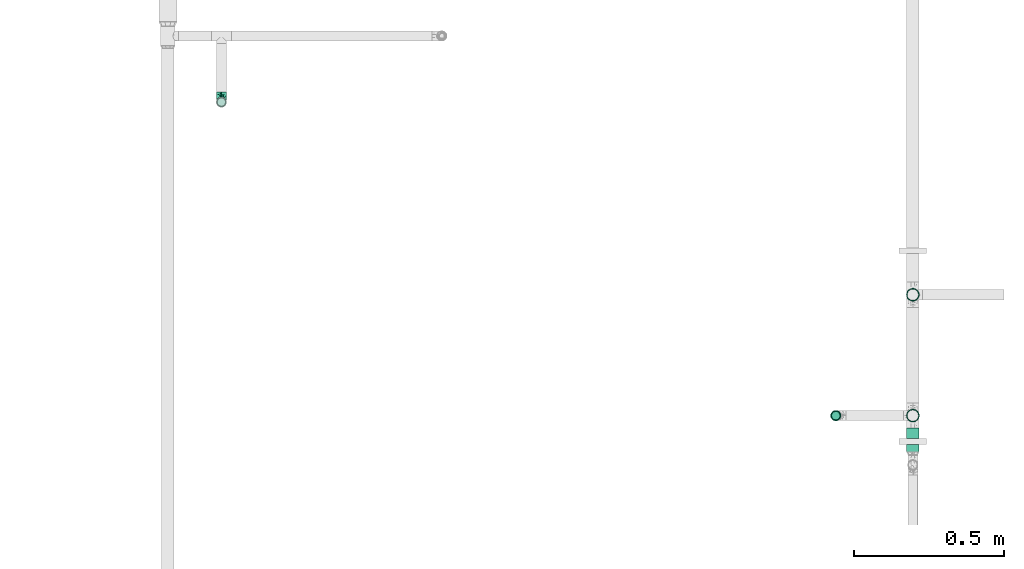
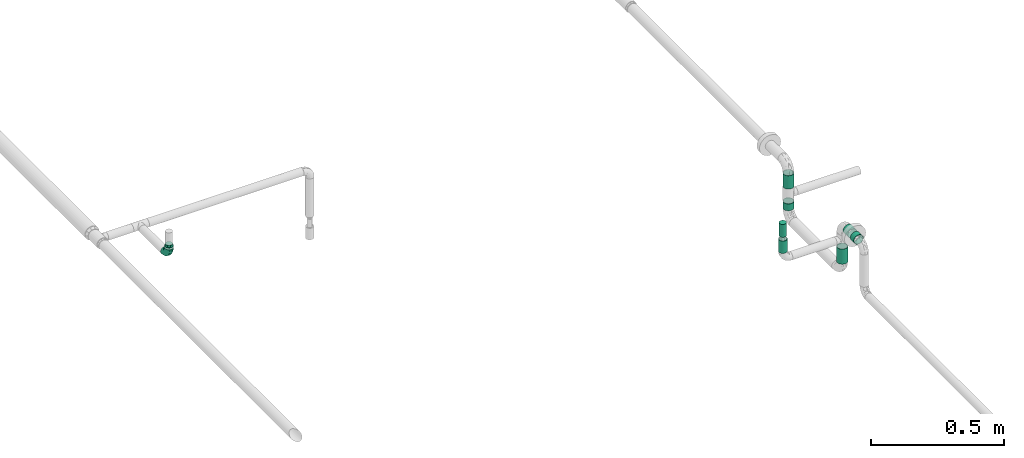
# One storey, part 19 of 43: 6 flow segments, 2 flow fittings, 1 flow terminal.
"""IFC2X3 building model written with IfcOpenShell, lengths in millimetres."""

from ifc_helpers import new_model, entity, si_unit, converted_unit, derived_unit, direction, frame, origin_with_axes, origin_2d_with_axis, place, context, subcontext, project, spatial, hollow_circle, extrude, open_shell, surface_model, source, transform, mapped, type_object, element, save


model = new_model("IFC2X3")

# Units and contexts
model_context = context("Model", 3, precision=0.01, world=frame((0.0, 4.29681676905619e-09, 0.0)), true_north=direction((4.01073788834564e-13, 1.0)))
plan_context = context("Plan", 3, precision=0.01, world=frame((0.0, 4.29681676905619e-09, 0.0)), true_north=direction((4.01073788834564e-13, 1.0)))
body_context = subcontext(model_context, "Body", "Model", "MODEL_VIEW")
ifc_project = project(units=[converted_unit("PLANEANGLEUNIT", "DEGREE", entity("IfcPositiveLengthMeasure", 0.0174532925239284), si_unit("PLANEANGLEUNIT", "RADIAN"), dimensions=[0, 0, 0, 0, 0, 0, 0]), si_unit("AREAUNIT", "SQUARE_METRE"), si_unit("LENGTHUNIT", "METRE", prefix="MILLI"), si_unit("MASSUNIT", "GRAM", prefix="KILO"), si_unit("POWERUNIT", "WATT"), si_unit("PRESSUREUNIT", "PASCAL"), si_unit("FORCEUNIT", "NEWTON", prefix="KILO"), si_unit("ELECTRICVOLTAGEUNIT", "VOLT"), si_unit("ELECTRICCURRENTUNIT", "AMPERE"), si_unit("THERMODYNAMICTEMPERATUREUNIT", "DEGREE_CELSIUS"), si_unit("TIMEUNIT", "SECOND"), si_unit("VOLUMEUNIT", "CUBIC_METRE"), derived_unit("LINEARVELOCITYUNIT", [(si_unit("LENGTHUNIT", "METRE"), 1), (si_unit("TIMEUNIT", "SECOND"), -1)]), derived_unit("VOLUMETRICFLOWRATEUNIT", [(si_unit("VOLUMEUNIT", "CUBIC_METRE"), 1), (si_unit("TIMEUNIT", "SECOND"), -1)]), derived_unit("THERMALTRANSMITTANCEUNIT", [(si_unit("POWERUNIT", "WATT"), 1), (si_unit("THERMODYNAMICTEMPERATUREUNIT", "KELVIN"), -1), (si_unit("AREAUNIT", "SQUARE_METRE"), -1)]), derived_unit("SOUNDPRESSUREUNIT", [(si_unit("PRESSUREUNIT", "PASCAL"), 1)])], contexts=[model_context, plan_context])

# Site, building, storey
site_placement = place(None, frame((0.0, -4.29681676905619e-09, 0.0), z_axis=(0.0, 0.0, 1.0), x_axis=(1.0, 0.0, 0.0)))
site = spatial("IfcSite", under=ifc_project, at=site_placement, CompositionType="ELEMENT")
building_placement = place(site_placement, frame((0.0, 4.29681676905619e-09, 0.0), z_axis=(0.0, 0.0, 1.0), x_axis=(1.0, 0.0, 0.0)))
building = spatial("IfcBuilding", under=site, at=building_placement, Name="mc-building", CompositionType="ELEMENT")
storey_placement = place(building_placement, frame((0.0, 0.0, 210900.0), z_axis=(0.0, 0.0, 1.0), x_axis=(1.0, 0.0, 0.0)))
storey = spatial("IfcBuildingStorey", under=building, at=storey_placement, Name="Nivå F", CompositionType="ELEMENT", Elevation=210900.0)

# Flow fittings
pipe_fitting_type_1 = type_object("IfcPipeFittingType", Name="magi_pipe_fe_elbow_short_001", PredefinedType="BEND")
shared_shape_1 = source(origin_with_axes(), body_context, "Body", "SurfaceModel", [
    surface_model("IfcShellBasedSurfaceModel", [(-33.8, 4.37404, -16.32415), (-33.8, 0.0, -16.9), (-33.8, 11.9501, -11.9501), (-33.8, 8.45, -14.63583), (-33.8, 16.32415, -4.37404), (-33.8, 14.63583, -8.45), (-33.8, -14.63583, -8.45), (-33.8, -16.32415, -4.37404), (-33.8, -8.45, 14.63583), (-33.8, -11.9501, -11.9501), (-33.8, -8.45, -14.63583), (-33.8, -4.37404, -16.32415), (-33.8, -16.9, 0.0), (-33.8, -16.32415, 4.37404), (-33.8, 11.9501, 11.9501), (-33.8, 14.63583, 8.45), (-33.8, 16.32415, 4.37404), (-33.8, 4.37404, 16.32415), (-33.8, 8.45, 14.63583), (-33.8, -14.63583, 8.45), (-33.8, -11.9501, 11.9501), (-33.8, -4.37404, 16.32415), (-33.8, 0.0, 16.9), (-33.8, 16.9, 0.0), (-11.9501, 33.8, -11.9501), (0.0, 33.8, -16.9), (-4.37404, 33.8, -16.32415), (-8.45, 33.8, -14.63583), (-14.63583, 33.8, -8.45), (-16.32415, 33.8, -4.37404), (14.63583, 33.8, -8.45), (8.45, 33.8, 14.63583), (16.32415, 33.8, -4.37404), (8.45, 33.8, -14.63583), (11.9501, 33.8, -11.9501), (4.37404, 33.8, -16.32415), (16.32415, 33.8, 4.37404), (16.9, 33.8, 0.0), (-11.9501, 33.8, 11.9501), (-16.32415, 33.8, 4.37404), (-14.63583, 33.8, 8.45), (-8.45, 33.8, 14.63583), (-4.37404, 33.8, 16.32415), (11.9501, 33.8, 11.9501), (14.63583, 33.8, 8.45), (0.0, 33.8, 16.9), (4.37404, 33.8, 16.32415), (-16.9, 33.8, 0.0), (-24.79389, -13.12945, 9.48721), (-22.19287, -9.75018, 12.59315), (-24.09897, -14.97035, 0.0), (-14.93934, -10.76256, 8.5297), (-22.46095, -14.75051, 5.27077), (14.75051, 22.46094, 5.27077), (11.9251, 13.23888, 4.33236), (13.04069, 14.39795, 0.0), (7.71387, 13.68847, 11.55891), (9.75018, 22.19287, 12.59315), (4.10169, 13.0571, 14.04018), (-24.84007, -6.39063, 15.2048), (-25.81779, -2.23879, 16.61097), (-23.66549, 2.59054, 16.87119), (-26.50418, 14.06512, 11.08152), (-24.21253, 17.66365, 7.72657), (-29.58514, 15.86957, 7.00283), (-6.17382, -7.5455, 0.0), (-13.23888, -11.9251, 4.33236), (-14.39795, -13.04069, 0.0), (-17.81434, 18.87373, 11.97104), (-6.30846, 29.15138, 15.82987), (-2.31622, 25.28002, 16.85849), (-29.23923, 10.23435, 13.77053), (-1.45439, -2.85688, 7.61475), (-0.28326, 0.34872, 10.09509), (-5.74484, -4.04709, 10.4122), (-4.41137, 11.31918, 16.59407), (-8.39727, 3.10034, 15.7812), (-1.72649, 9.1306, 15.53089), (-17.39909, 24.75344, 7.64977), (-26.19233, 20.0512, 0.0), (-28.14518, 17.29657, 4.25857), (-26.05147, 6.6281, 15.96447), (-5.87354, 16.61944, 16.86968), (-12.51807, 12.51807, 16.48937), (-10.06312, 7.38516, 16.81295), (-3.01882, 3.01882, 13.81718), (-13.0571, -4.10169, 14.04018), (-16.82553, -0.15166, 16.38038), (10.76256, 14.93934, 8.5297), (13.12945, 24.79389, 9.48721), (6.39063, 24.84007, 15.2048), (2.23879, 25.81779, 16.61097), (-13.68847, -7.71387, 11.55891), (14.97035, 24.09897, 0.0), (-7.30894, 22.89991, 16.09489), (-10.67958, 26.17414, 14.008), (-12.78295, 18.26924, 15.06066), (-13.88562, 22.45231, 12.93244), (-18.04944, 15.16501, 14.04434), (-23.11658, 20.08178, 4.02986), (-21.84989, 21.84989, 0.0), (-18.55817, 25.48277, 3.93065), (-13.95142, 26.94732, 11.03289), (-18.57098, 7.23906, 16.59756), (-16.58335, 4.14122, 16.89279), (-17.96666, 11.46709, 15.63151), (-9.84453, 17.54304, 16.18938), (0.15166, 16.82553, 16.38038), (-23.27207, 11.47201, 14.23154), (3.84842, 5.86994, 10.70473), (-8.0212, -7.54413, 7.93275), (1.00345, -2.19508, 4.57414), (5.13203, 3.01004, 5.90201), (5.24161, 1.7543, 2.53265), (8.70457, 7.04947, 3.99182), (-20.0512, 26.19233, 0.0), (8.4852, 8.76699, 7.09296), (-4.55488, -6.72064, 4.90681), (2.05031, -2.05031, 0.0), (7.5455, 6.17382, 0.0), (-26.75399, 2.1369, -16.845), (-14.61995, 24.73803, -11.27736), (-28.45274, -13.45335, -9.81895), (-26.00469, 6.63555, -15.96645), (-23.06726, 20.04573, -4.26202), (-13.80647, -4.26506, -14.17873), (-14.67501, -0.21081, -16.07388), (-6.7902, -0.2828, -13.8478), (-24.53586, 11.08096, -14.13417), (-26.72048, 14.00837, -11.05776), (10.0967, 24.44989, -12.75976), (5.83237, 21.40218, -15.03047), (6.66249, 28.54238, -15.38093), (-20.38182, 15.48705, -12.74596), (-15.65186, 19.64213, -13.01327), (-12.03528, 20.66498, -14.67665), (-15.61907, 15.61906, -14.83879), (-25.56551, -15.26206, 0.0), (-24.65452, -15.12934, -5.50955), (12.53268, 21.23441, -9.15363), (13.45335, 28.45274, -9.81895), (15.12934, 24.65452, -5.50955), (-7.35442, -8.31014, -5.65563), (-15.67504, -12.54494, -5.54878), (-24.44989, -10.0967, -12.75976), (0.16522, 0.41303, -9.71728), (-5.70658, -5.33066, -8.89288), (-5.13869, -2.37198, -11.53565), (-21.23441, -12.53268, -9.15363), (0.71146, 7.93863, -14.09382), (0.21081, 14.67501, -16.07388), (3.49291, 14.42772, -14.76381), (-24.89911, -2.13088, -16.591), (-28.54238, -6.66249, -15.38093), (-18.44386, -7.71663, -13.26957), (2.13088, 24.89911, -16.591), (-28.64342, 17.44413, -2.89318), (1.70017, -1.28722, -5.09504), (-16.57067, 26.81947, -7.36596), (-17.69055, 27.4263, -3.76405), (-12.89279, -9.7522, -8.66343), (-5.96611, 5.96611, -15.95814), (-20.53709, 20.09345, -8.28985), (-2.1369, 26.75399, -16.845), (-6.89872, 24.58781, -16.02578), (-10.60739, 26.53157, -13.98044), (-21.40218, -5.83237, -15.03047), (2.93192, 5.89627, -11.55917), (6.89393, 12.61842, -11.82233), (5.58056, 5.95325, -8.79455), (-3.99512, 18.61798, -16.89635), (-9.1383, 9.86148, -16.89041), (-9.99983, 16.02119, -16.39699), (-16.68576, 9.78031, -16.34199), (-27.01915, 16.61158, -7.12979), (15.26206, 25.56551, 0.0), (-18.61798, 3.99512, -16.89635), (-19.37495, 27.82495, 0.0), (9.7522, 12.89279, -8.66343), (-12.61842, -6.89393, -11.82233), (8.31014, 7.35442, -5.65563), (-18.84705, 19.14018, -10.96545), (12.54494, 15.67504, -5.54878)], [open_shell([[[0, 1, 2]], [[3, 0, 2]], [[4, 5, 2]], [[6, 2, 1]], [[2, 7, 8]], [[9, 6, 10]], [[1, 11, 10]], [[10, 6, 1]], [[2, 6, 7]], [[12, 13, 7]], [[4, 2, 14]], [[4, 15, 16]], [[4, 14, 15]], [[17, 18, 14]], [[14, 2, 8]], [[17, 14, 8]], [[19, 20, 13]], [[20, 7, 13]], [[21, 22, 8]], [[20, 8, 7]], [[8, 22, 17]], [[4, 16, 23]], [[24, 25, 26]], [[24, 26, 27]], [[24, 28, 29]], [[25, 24, 30]], [[31, 32, 24]], [[33, 30, 34]], [[33, 35, 25]], [[25, 30, 33]], [[32, 30, 24]], [[32, 36, 37]], [[38, 24, 29]], [[39, 40, 29]], [[40, 38, 29]], [[38, 41, 42]], [[38, 31, 24]], [[31, 38, 42]], [[36, 43, 44]], [[36, 32, 43]], [[31, 45, 46]], [[32, 31, 43]], [[42, 45, 31]], [[39, 29, 47]], [[20, 48, 49]], [[13, 12, 50]], [[51, 48, 52]], [[53, 54, 55]], [[48, 20, 19]], [[13, 52, 19]], [[56, 57, 58]], [[49, 8, 20]], [[49, 59, 8]], [[22, 60, 61]], [[62, 63, 64]], [[65, 66, 67]], [[57, 43, 31]], [[62, 68, 63]], [[42, 69, 70]], [[18, 71, 14]], [[21, 60, 22]], [[72, 73, 74]], [[75, 76, 77]], [[14, 62, 15]], [[40, 39, 78]], [[79, 23, 80]], [[64, 16, 15]], [[22, 61, 17]], [[17, 81, 18]], [[82, 83, 84]], [[74, 85, 86]], [[59, 86, 87]], [[88, 89, 57]], [[90, 31, 46]], [[44, 53, 36]], [[46, 45, 91]], [[54, 53, 88]], [[44, 89, 53]], [[92, 86, 49]], [[89, 44, 43]], [[8, 59, 21]], [[53, 55, 93]], [[93, 36, 53]], [[66, 52, 67]], [[94, 82, 70]], [[95, 96, 94]], [[97, 98, 96]], [[79, 99, 100]], [[41, 38, 95]], [[101, 100, 99]], [[68, 78, 63]], [[42, 41, 69]], [[23, 16, 80]], [[95, 94, 69]], [[78, 101, 99]], [[38, 102, 95]], [[70, 45, 42]], [[97, 95, 102]], [[13, 50, 52]], [[90, 57, 31]], [[57, 90, 58]], [[81, 17, 61]], [[103, 104, 84]], [[105, 81, 103]], [[38, 40, 102]], [[106, 96, 83]], [[94, 106, 82]], [[91, 70, 107]], [[71, 62, 14]], [[62, 108, 98]], [[86, 59, 49]], [[67, 52, 50]], [[60, 59, 87]], [[92, 49, 51]], [[86, 85, 76]], [[91, 90, 46]], [[37, 36, 93]], [[107, 77, 58]], [[107, 58, 90]], [[58, 85, 109]], [[110, 74, 92]], [[72, 74, 110]], [[66, 51, 52]], [[72, 111, 112]], [[113, 114, 112]], [[56, 88, 57]], [[52, 48, 19]], [[49, 48, 51]], [[57, 89, 43]], [[53, 89, 88]], [[103, 81, 61]], [[71, 81, 108]], [[16, 64, 80]], [[63, 78, 99]], [[47, 115, 101]], [[101, 115, 100]], [[40, 78, 102]], [[68, 102, 78]], [[97, 96, 95]], [[105, 98, 108]], [[103, 84, 83]], [[107, 70, 82]], [[76, 84, 87]], [[82, 84, 75]], [[70, 91, 45]], [[90, 91, 107]], [[59, 60, 21]], [[61, 60, 87]], [[73, 85, 74]], [[109, 112, 116]], [[103, 61, 104]], [[105, 103, 83]], [[96, 105, 83]], [[81, 105, 108]], [[96, 98, 105]], [[62, 98, 68]], [[61, 87, 104]], [[87, 84, 104]], [[86, 76, 87]], [[77, 76, 85]], [[58, 77, 85]], [[75, 77, 107]], [[82, 75, 107]], [[76, 75, 84]], [[81, 71, 18]], [[62, 71, 108]], [[95, 69, 41]], [[70, 69, 94]], [[62, 64, 15]], [[80, 63, 99]], [[63, 80, 64]], [[80, 99, 79]], [[66, 65, 117]], [[110, 66, 117]], [[112, 114, 116]], [[118, 117, 65]], [[110, 92, 51]], [[112, 111, 113]], [[119, 55, 54]], [[74, 86, 92]], [[58, 109, 56]], [[116, 56, 109]], [[66, 110, 51]], [[72, 110, 117]], [[111, 72, 117]], [[73, 112, 109]], [[117, 118, 111]], [[113, 111, 118]], [[118, 119, 113]], [[114, 119, 54]], [[119, 114, 113]], [[116, 54, 88]], [[54, 116, 114]], [[116, 88, 56]], [[112, 73, 72]], [[85, 73, 109]], [[78, 39, 101]], [[47, 101, 39]], [[102, 68, 97]], [[97, 68, 98]], [[82, 106, 83]], [[94, 96, 106]], [[0, 120, 1]], [[28, 24, 121]], [[9, 122, 6]], [[3, 123, 0]], [[100, 124, 79]], [[125, 126, 127]], [[128, 2, 129]], [[130, 131, 132]], [[128, 129, 133]], [[134, 135, 136]], [[128, 3, 2]], [[67, 137, 138]], [[139, 140, 141]], [[138, 7, 6]], [[142, 65, 143]], [[144, 9, 10]], [[145, 146, 147]], [[143, 138, 148]], [[149, 150, 151]], [[152, 11, 1]], [[10, 153, 144]], [[148, 144, 154]], [[153, 10, 11]], [[35, 155, 25]], [[23, 79, 156]], [[146, 157, 142]], [[158, 159, 29]], [[143, 160, 142]], [[161, 150, 149]], [[29, 28, 158]], [[121, 162, 158]], [[33, 34, 130]], [[25, 163, 26]], [[26, 163, 164]], [[140, 34, 30]], [[24, 27, 165]], [[124, 159, 162]], [[155, 35, 132]], [[153, 152, 166]], [[123, 3, 128]], [[167, 168, 169]], [[170, 155, 150]], [[26, 164, 27]], [[132, 35, 33]], [[140, 130, 34]], [[166, 152, 126]], [[133, 134, 136]], [[2, 5, 129]], [[168, 131, 130]], [[30, 32, 141]], [[170, 171, 172]], [[173, 123, 128]], [[156, 174, 4]], [[165, 27, 164]], [[172, 164, 170]], [[134, 165, 135]], [[122, 138, 6]], [[137, 12, 7]], [[32, 37, 175]], [[168, 130, 139]], [[150, 155, 131]], [[163, 155, 170]], [[151, 168, 149]], [[150, 161, 171]], [[166, 125, 154]], [[122, 144, 148]], [[120, 152, 1]], [[176, 171, 126]], [[176, 126, 152]], [[126, 161, 127]], [[160, 143, 148]], [[137, 7, 138]], [[32, 175, 141]], [[55, 141, 175]], [[174, 129, 5]], [[128, 133, 136]], [[173, 128, 136]], [[120, 123, 176]], [[121, 158, 28]], [[159, 100, 177]], [[164, 172, 135]], [[121, 24, 165]], [[159, 47, 29]], [[79, 124, 156]], [[124, 162, 174]], [[159, 124, 100]], [[178, 169, 168]], [[127, 161, 149]], [[145, 169, 157]], [[146, 142, 160]], [[127, 149, 167]], [[127, 179, 125]], [[129, 174, 162]], [[5, 4, 174]], [[157, 65, 142]], [[67, 138, 143]], [[123, 120, 0]], [[152, 120, 176]], [[155, 163, 25]], [[164, 163, 170]], [[170, 150, 171]], [[173, 136, 172]], [[126, 171, 161]], [[173, 171, 176]], [[171, 173, 172]], [[123, 173, 176]], [[148, 179, 160]], [[127, 147, 179]], [[179, 146, 160]], [[157, 146, 145]], [[169, 178, 180]], [[168, 139, 178]], [[157, 169, 180]], [[169, 145, 167]], [[167, 145, 147]], [[149, 168, 167]], [[162, 181, 129]], [[181, 121, 134]], [[179, 147, 146]], [[167, 147, 127]], [[181, 134, 133]], [[165, 134, 121]], [[164, 135, 165]], [[172, 136, 135]], [[129, 181, 133]], [[121, 181, 162]], [[159, 158, 162]], [[47, 159, 177]], [[174, 156, 124]], [[23, 156, 4]], [[130, 132, 33]], [[155, 132, 131]], [[141, 140, 30]], [[130, 140, 139]], [[152, 153, 11]], [[144, 153, 166]], [[144, 122, 9]], [[138, 122, 148]], [[150, 131, 151]], [[157, 119, 118]], [[67, 143, 65]], [[168, 151, 131]], [[119, 157, 180]], [[157, 118, 65]], [[154, 125, 179]], [[126, 125, 166]], [[148, 154, 179]], [[166, 154, 144]], [[139, 182, 178]], [[141, 182, 139]], [[178, 182, 180]], [[182, 55, 119]], [[141, 55, 182]], [[182, 119, 180]]])]),
])
flow_fitting_1_placement = place(storey_placement, frame((608058.43429, 692038.17058, 2660.0), z_axis=(1.0, 0.0, 0.0), x_axis=(0.0, 0.0, -1.0)))
element("IfcFlowFitting", 1, at=flow_fitting_1_placement, inside=storey, type_object=pipe_fitting_type_1, Name="magi_pipe_fe_elbow_short_001", context=body_context, shape_type="MappedRepresentation", body=[
    mapped(shared_shape_1, transform((0.0, 0.0, 0.0), scale=1.0)),
])
pipe_fitting_type_2 = type_object("IfcPipeFittingType", Name="magi_pipe_fe_reducer_centric_short_NOR", PredefinedType="TRANSITION")
shared_shape_2 = source(origin_with_axes(), body_context, "Body", "SurfaceModel", [
    surface_model("IfcShellBasedSurfaceModel", [(-2.0, 11.9501, 11.9501), (-2.0, 0.0, 16.9), (-2.0, 4.37404, 16.32415), (-2.0, 8.45, 14.63583), (-2.0, 14.63583, 8.45), (-2.0, 16.32415, 4.37404), (-2.0, -16.32415, 4.37404), (-2.0, -8.45, 14.63583), (-2.0, -14.63583, 8.45), (-2.0, -11.9501, 11.9501), (-2.0, -4.37404, 16.32415), (-2.0, -16.32415, -4.37404), (-2.0, -16.9, 0.0), (-2.0, -8.45, -14.63583), (-2.0, 16.32415, -4.37404), (-2.0, 11.9501, -11.9501), (-2.0, 14.63583, -8.45), (-2.0, 8.45, -14.63583), (-2.0, 4.37404, -16.32415), (-2.0, 0.0, -16.9), (-2.0, -11.9501, -11.9501), (-2.0, -14.63583, -8.45), (-2.0, -4.37404, -16.32415), (-2.0, 16.9, 0.0), (0.0, 4.37404, -16.32415), (0.0, 8.45, -14.63583), (0.0, 11.9501, -11.9501), (0.0, 0.0, -16.9), (0.0, 16.32415, -4.37404), (0.0, 16.32415, 4.37404), (0.0, 14.63583, -8.45), (0.0, -8.45, -14.63583), (0.0, -4.37404, -16.32415), (0.0, -11.9501, -11.9501), (0.0, -16.32415, -4.37404), (0.0, -14.63583, -8.45), (0.0, -16.32415, 4.37404), (0.0, 16.9, 0.0), (0.0, 14.63583, 8.45), (0.0, 11.9501, 11.9501), (0.0, 4.37404, 16.32415), (0.0, 8.45, 14.63583), (0.0, 0.0, 16.9), (0.0, -14.63583, 8.45), (0.0, -16.9, 0.0), (0.0, -8.45, 14.63583), (0.0, -11.9501, 11.9501), (0.0, -4.37404, 16.32415), (9.0, 12.94341, -3.46818), (9.0, 3.46818, -12.94341), (9.0, 6.7, -11.60474), (9.0, 9.47523, -9.47523), (9.0, -6.7, -11.60474), (9.0, -12.94341, 3.46818), (9.0, 11.60474, -6.7), (9.0, 0.0, -13.4), (9.0, -3.46818, -12.94341), (9.0, -9.47523, -9.47523), (9.0, -12.94341, -3.46818), (9.0, -11.60474, -6.7), (9.0, 13.4, 0.0), (9.0, 12.94341, 3.46818), (9.0, 11.60474, 6.7), (9.0, 9.47523, 9.47523), (9.0, 0.0, 13.4), (9.0, 6.7, 11.60474), (9.0, 3.46818, 12.94341), (9.0, -6.7, 11.60474), (9.0, -9.47523, 9.47523), (9.0, -11.60474, 6.7), (9.0, -13.4, 0.0), (9.0, -3.46818, 12.94341), (7.0, 0.0, 13.4), (7.0, 3.46818, 12.94341), (7.0, 6.7, 11.60474), (7.0, -3.46818, 12.94341), (7.0, 9.47523, 9.47523), (7.0, 11.60474, 6.7), (7.0, 12.94341, 3.46818), (7.0, -12.94341, 3.46818), (7.0, -9.47523, 9.47523), (7.0, -6.7, 11.60474), (7.0, -11.60474, 6.7), (7.0, -12.94341, -3.46818), (7.0, -13.4, 0.0), (7.0, -6.7, -11.60474), (7.0, 12.94341, -3.46818), (7.0, 9.47523, -9.47523), (7.0, 11.60474, -6.7), (7.0, 6.7, -11.60474), (7.0, 3.46818, -12.94341), (7.0, -9.47523, -9.47523), (7.0, -11.60474, -6.7), (7.0, 0.0, -13.4), (7.0, -3.46818, -12.94341), (7.0, 13.4, 0.0), (0.0, 13.18758, -8.96258), (0.0, 14.42505, -5.97505), (7.0, 10.491, -7.02294), (7.0, 11.50677, -4.57065), (0.0, 15.66253, -2.98753), (7.0, 12.45339, -2.28533), (0.0, 2.98753, -15.66253), (0.0, 5.97505, -14.42505), (0.0, 8.96258, -13.18758), (7.0, 4.73762, -11.43761), (7.0, 7.10642, -10.45642), (7.0, 2.36881, -12.41881), (0.0, -14.42505, -5.97505), (7.0, -11.43761, -4.73762), (7.0, -12.41881, -2.36881), (7.0, -2.36881, -12.41881), (7.0, -10.45642, -7.10642), (0.0, -15.70614, -2.88224), (0.0, -13.18758, -8.96258), (7.0, -4.73762, -11.43761), (7.0, -7.10642, -10.45642), (0.0, -5.97505, -14.42505), (0.0, -2.98753, -15.66253), (0.0, -8.96258, -13.18758), (0.0, -13.18758, 8.96258), (0.0, -14.42505, 5.97505), (7.0, -10.491, 7.02294), (7.0, -11.50677, 4.57065), (0.0, -15.66253, 2.98753), (7.0, -12.45339, 2.28533), (0.0, -2.98753, 15.66253), (0.0, -5.97505, 14.42505), (0.0, -8.96258, 13.18758), (7.0, -4.73762, 11.43761), (7.0, -7.10642, 10.45642), (7.0, -2.36881, 12.41881), (0.0, 14.42505, 5.97505), (7.0, 11.43761, 4.73762), (7.0, 12.41881, 2.36881), (7.0, 2.36881, 12.41881), (7.0, 10.45642, 7.10642), (0.0, 15.70614, 2.88224), (0.0, 13.18758, 8.96258), (7.0, 4.73762, 11.43761), (7.0, 7.10642, 10.45642), (0.0, 5.97505, 14.42505), (0.0, 2.98753, 15.66253), (0.0, 8.96258, 13.18758)], [open_shell([[[0, 1, 2]], [[0, 2, 3]], [[0, 4, 5]], [[0, 5, 1]], [[1, 5, 6]], [[7, 8, 9]], [[7, 10, 1]], [[8, 7, 1]], [[1, 6, 8]], [[6, 11, 12]], [[6, 5, 13]], [[5, 14, 15]], [[15, 14, 16]], [[15, 17, 18]], [[13, 5, 15]], [[19, 15, 18]], [[11, 20, 21]], [[20, 11, 13]], [[13, 19, 22]], [[11, 6, 13]], [[15, 19, 13]], [[5, 23, 14]], [[24, 25, 26]], [[27, 24, 26]], [[26, 28, 29]], [[28, 26, 30]], [[26, 29, 31]], [[27, 31, 32]], [[27, 26, 31]], [[33, 34, 35]], [[34, 33, 31]], [[31, 36, 34]], [[29, 28, 37]], [[29, 38, 39]], [[29, 39, 40]], [[40, 36, 31]], [[40, 39, 41]], [[36, 40, 42]], [[42, 43, 36]], [[44, 34, 36]], [[43, 45, 46]], [[43, 42, 45]], [[45, 42, 47]], [[31, 29, 40]], [[11, 34, 12]], [[21, 35, 11]], [[31, 20, 13]], [[21, 20, 33]], [[32, 13, 22]], [[11, 35, 34]], [[34, 44, 12]], [[32, 31, 13]], [[33, 20, 31]], [[33, 35, 21]], [[27, 32, 22]], [[22, 19, 27]], [[18, 24, 19]], [[17, 25, 18]], [[30, 15, 16]], [[17, 15, 26]], [[28, 16, 14]], [[17, 26, 25]], [[25, 24, 18]], [[37, 28, 14]], [[30, 16, 28]], [[30, 26, 15]], [[23, 37, 14]], [[19, 24, 27]], [[5, 29, 23]], [[4, 38, 5]], [[41, 0, 3]], [[4, 0, 39]], [[40, 3, 2]], [[5, 38, 29]], [[29, 37, 23]], [[40, 41, 3]], [[39, 0, 41]], [[39, 38, 4]], [[42, 40, 2]], [[2, 1, 42]], [[10, 47, 1]], [[7, 45, 10]], [[43, 9, 8]], [[7, 9, 46]], [[36, 8, 6]], [[7, 46, 45]], [[45, 47, 10]], [[44, 36, 6]], [[43, 8, 36]], [[43, 46, 9]], [[12, 44, 6]], [[1, 47, 42]], [[33, 44, 27]], [[42, 39, 46]], [[39, 27, 44]], [[44, 46, 39]], [[48, 49, 50]], [[48, 50, 51]], [[52, 49, 53]], [[48, 51, 54]], [[49, 48, 53]], [[55, 52, 56]], [[55, 49, 52]], [[57, 58, 59]], [[53, 58, 57]], [[57, 52, 53]], [[48, 60, 53]], [[61, 62, 63]], [[61, 63, 64]], [[65, 66, 64]], [[65, 64, 63]], [[61, 64, 67]], [[53, 68, 69]], [[70, 58, 53]], [[53, 67, 68]], [[53, 61, 67]], [[71, 67, 64]], [[53, 60, 61]], [[72, 73, 74]], [[75, 72, 74]], [[76, 77, 78]], [[74, 76, 75]], [[78, 79, 76]], [[75, 80, 81]], [[80, 75, 79]], [[80, 79, 82]], [[75, 76, 79]], [[79, 83, 84]], [[79, 78, 85]], [[86, 87, 78]], [[87, 86, 88]], [[89, 85, 78]], [[78, 87, 89]], [[85, 89, 90]], [[83, 91, 92]], [[83, 79, 91]], [[85, 93, 94]], [[79, 85, 91]], [[90, 93, 85]], [[95, 86, 78]], [[83, 58, 84]], [[92, 59, 83]], [[52, 91, 85]], [[92, 91, 57]], [[56, 85, 94]], [[83, 59, 58]], [[58, 70, 84]], [[56, 52, 85]], [[57, 91, 52]], [[57, 59, 92]], [[55, 56, 94]], [[94, 93, 55]], [[90, 49, 93]], [[89, 50, 90]], [[54, 87, 88]], [[89, 87, 51]], [[48, 88, 86]], [[89, 51, 50]], [[50, 49, 90]], [[60, 48, 86]], [[54, 88, 48]], [[54, 51, 87]], [[95, 60, 86]], [[93, 49, 55]], [[78, 61, 95]], [[77, 62, 78]], [[65, 76, 74]], [[77, 76, 63]], [[66, 74, 73]], [[78, 62, 61]], [[61, 60, 95]], [[66, 65, 74]], [[63, 76, 65]], [[63, 62, 77]], [[64, 66, 73]], [[73, 72, 64]], [[75, 71, 72]], [[81, 67, 75]], [[69, 80, 82]], [[81, 80, 68]], [[53, 82, 79]], [[81, 68, 67]], [[67, 71, 75]], [[70, 53, 79]], [[69, 82, 53]], [[69, 68, 80]], [[84, 70, 79]], [[72, 71, 64]], [[72, 80, 95]], [[95, 76, 72]], [[80, 91, 95]], [[91, 93, 95]], [[87, 95, 93]], [[80, 84, 91]], [[26, 27, 39]], [[39, 37, 26]], [[96, 97, 98]], [[99, 100, 101]], [[37, 95, 101]], [[93, 27, 102]], [[103, 104, 105]], [[104, 26, 106]], [[87, 26, 96]], [[103, 107, 102]], [[108, 109, 110]], [[37, 101, 100]], [[27, 93, 111]], [[112, 33, 91]], [[110, 84, 113]], [[109, 114, 112]], [[33, 112, 114]], [[115, 116, 117]], [[115, 118, 111]], [[93, 102, 107]], [[116, 91, 119]], [[27, 111, 118]], [[97, 99, 98]], [[87, 96, 98]], [[100, 99, 97]], [[26, 87, 106]], [[105, 104, 106]], [[107, 103, 105]], [[84, 44, 113]], [[108, 110, 113]], [[114, 109, 108]], [[91, 33, 119]], [[117, 116, 119]], [[118, 115, 117]], [[120, 121, 122]], [[123, 124, 125]], [[44, 84, 125]], [[72, 42, 126]], [[127, 128, 129]], [[128, 46, 130]], [[80, 46, 120]], [[127, 131, 126]], [[132, 133, 134]], [[44, 125, 124]], [[42, 72, 135]], [[136, 39, 76]], [[134, 95, 137]], [[133, 138, 136]], [[39, 136, 138]], [[139, 140, 141]], [[139, 142, 135]], [[72, 126, 131]], [[140, 76, 143]], [[42, 135, 142]], [[121, 123, 122]], [[80, 120, 122]], [[124, 123, 121]], [[46, 80, 130]], [[129, 128, 130]], [[131, 127, 129]], [[95, 37, 137]], [[132, 134, 137]], [[138, 133, 132]], [[76, 39, 143]], [[141, 140, 143]], [[142, 139, 141]]])]),
])
flow_fitting_2_placement = place(storey_placement, frame((608058.44083, 692038.25322, 2702.99278), z_axis=(-0.0788420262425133, -0.996846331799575, 0.00901807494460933), x_axis=(0.00071100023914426, 0.00899000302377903, 0.999959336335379)))
element("IfcFlowFitting", 2, at=flow_fitting_2_placement, inside=storey, type_object=pipe_fitting_type_2, Name="magi_pipe_fe_reducer_centric_short_NOR", context=body_context, shape_type="MappedRepresentation", body=[
    mapped(shared_shape_2, transform((0.0, 0.0, 0.0), scale=1.0)),
])

# Flow segments
pipe_segment_type = type_object("IfcPipeSegmentType", Name="Stålrør normaltykke", PredefinedType="RIGIDSEGMENT")
shared_shape_3 = source(origin_with_axes(), body_context, "Body", "SweptSolid", [
    extrude(hollow_circle(Radius=16.9, WallThickness=2.0, at=origin_2d_with_axis()), frame((0.0, 0.0, 0.0), z_axis=(1.0, 0.0, 0.0), x_axis=(0.0, 1.0, 0.0)), (0.0, 0.0, 1.0), 56.3),
])
flow_segment_1_placement = place(storey_placement, frame((610109.53901, 690991.77265, 2650.10000000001), z_axis=(-1.0, 0.0, 0.0), x_axis=(0.0, 0.0, -1.0)))
element("IfcFlowSegment", 3, at=flow_segment_1_placement, inside=storey, type_object=pipe_segment_type, Name="Stålrør normaltykke", context=body_context, shape_type="MappedRepresentation", body=[
    mapped(shared_shape_3, transform((0.0, 0.0, 0.0), scale=1.0)),
])
shared_shape_4 = source(origin_with_axes(), body_context, "Body", "SweptSolid", [
    extrude(hollow_circle(Radius=21.2, WallThickness=2.0, at=origin_2d_with_axis()), frame((0.0, 0.0, 0.0), z_axis=(1.0, 0.0, 0.0), x_axis=(0.0, 1.0, 0.0)), (0.0, 0.0, 1.0), 31.3),
])
flow_segment_2_placement = place(storey_placement, frame((610366.6122, 691395.18624, 2488.70000000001), z_axis=(0.0, 1.0, 0.0), x_axis=(0.0, 0.0, -1.0)))
element("IfcFlowSegment", 4, at=flow_segment_2_placement, inside=storey, type_object=pipe_segment_type, Name="Stålrør normaltykke", context=body_context, shape_type="MappedRepresentation", body=[
    mapped(shared_shape_4, transform((0.0, 0.0, 0.0), scale=1.0)),
])
shared_shape_5 = source(origin_with_axes(), body_context, "Body", "SweptSolid", [
    extrude(hollow_circle(Radius=21.2, WallThickness=2.0, at=origin_2d_with_axis()), frame((0.0, 0.0, 0.0), z_axis=(1.0, 0.0, 0.0), x_axis=(0.0, 1.0, 0.0)), (0.0, 0.0, 1.0), 34.4),
])
flow_segment_3_placement = place(storey_placement, frame((610366.6122, 690949.61616, 2630.0), z_axis=(0.0, 0.0, 1.0), x_axis=(0.0, -1.0, 0.0)))
element("IfcFlowSegment", 5, at=flow_segment_3_placement, inside=storey, type_object=pipe_segment_type, Name="Stålrør normaltykke", context=body_context, shape_type="MappedRepresentation", body=[
    mapped(shared_shape_5, transform((0.0, 0.0, 0.0), scale=1.0)),
])
shared_shape_6 = source(origin_with_axes(), body_context, "Body", "SweptSolid", [
    extrude(hollow_circle(Radius=21.2, WallThickness=2.0, at=origin_2d_with_axis()), frame((0.0, 0.0, 0.0), z_axis=(1.0, 0.0, 0.0), x_axis=(0.0, 1.0, 0.0)), (0.0, 0.0, 1.0), 68.8),
])
flow_segment_4_placement = place(storey_placement, frame((610366.6122, 690991.80919, 2457.39999999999), z_axis=(0.0, 1.0, 0.0), x_axis=(0.0, 0.0, 1.0)))
element("IfcFlowSegment", 6, at=flow_segment_4_placement, inside=storey, type_object=pipe_segment_type, Name="Stålrør normaltykke", context=body_context, shape_type="MappedRepresentation", body=[
    mapped(shared_shape_6, transform((0.0, 0.0, 0.0), scale=1.0)),
])
shared_shape_7 = source(origin_with_axes(), body_context, "Body", "SweptSolid", [
    extrude(hollow_circle(Radius=21.2, WallThickness=2.0, at=origin_2d_with_axis()), frame((0.0, 0.0, 0.0), z_axis=(1.0, 0.0, 0.0), x_axis=(0.0, 1.0, 0.0)), (0.0, 0.0, 1.0), 61.3),
])
flow_segment_5_placement = place(storey_placement, frame((610366.6122, 691395.18624, 2617.60000000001), z_axis=(0.0, 1.0, 0.0), x_axis=(0.0, 0.0, -1.0)))
element("IfcFlowSegment", 7, at=flow_segment_5_placement, inside=storey, type_object=pipe_segment_type, Name="Stålrør normaltykke", context=body_context, shape_type="MappedRepresentation", body=[
    mapped(shared_shape_7, transform((0.0, 0.0, 0.0), scale=1.0)),
])
shared_shape_8 = source(origin_with_axes(), body_context, "Body", "SweptSolid", [
    extrude(hollow_circle(Radius=21.2, WallThickness=2.0, at=origin_2d_with_axis()), frame((0.0, 0.0, 0.0), z_axis=(1.0, 0.0, 0.0), x_axis=(0.0, 1.0, 0.0)), (0.0, 0.0, 1.0), 25.4),
])
flow_segment_6_placement = place(storey_placement, frame((610366.6122, 690895.20027, 2630.0), z_axis=(0.0, 0.0, 1.0), x_axis=(0.0, -1.0, 0.0)))
element("IfcFlowSegment", 8, at=flow_segment_6_placement, inside=storey, type_object=pipe_segment_type, Name="Stålrør normaltykke", context=body_context, shape_type="MappedRepresentation", body=[
    mapped(shared_shape_8, transform((0.0, 0.0, 0.0), scale=1.0)),
])

# Flow terminal
fire_suppression_terminal_type = type_object("IfcFireSuppressionTerminalType", Name="CU/P-15-K80-68DGR-QR", PredefinedType="NOTDEFINED")
shared_shape_9 = source(origin_with_axes(), body_context, "Body", "SurfaceModel", [
    surface_model("IfcShellBasedSurfaceModel", [(-9.89949, 9.89949, 59.0), (-3.62347, 13.52296, 59.0), (-7.0, 12.12436, 59.0), (9.89949, 9.89949, 0.0), (12.12436, 7.0, 0.0), (13.52296, 3.62347, 0.0), (-3.62347, 13.52296, 0.0), (-9.89949, 9.89949, 0.0), (-7.0, 12.12436, 0.0), (-13.52296, -3.62347, 59.0), (-13.52296, -3.62347, 0.0), (-12.12436, -7.0, 0.0), (-9.89949, -9.89949, 0.0), (-12.12436, -7.0, 59.0), (-7.0, -12.12436, 59.0), (-7.0, -12.12436, 0.0), (-3.62347, -13.52296, 0.0), (-9.89949, -9.89949, 59.0), (-3.62347, -13.52296, 59.0), (0.0, -14.0, 0.0), (-14.0, 0.0, 59.0), (-14.0, 0.0, 0.0), (0.0, -14.0, 59.0), (3.62347, -13.52296, 59.0), (3.62347, -13.52296, 0.0), (7.0, -12.12436, 0.0), (9.89949, -9.89949, 0.0), (7.0, -12.12436, 59.0), (12.12436, -7.0, 59.0), (12.12436, -7.0, 0.0), (13.52296, -3.62347, 0.0), (9.89949, -9.89949, 59.0), (13.52296, -3.62347, 59.0), (14.0, 0.0, 0.0), (14.0, 0.0, 59.0), (13.52296, 3.62347, 59.0), (7.0, 12.12436, 59.0), (7.0, 12.12436, 0.0), (3.62347, 13.52296, 0.0), (9.89949, 9.89949, 59.0), (3.62347, 13.52296, 59.0), (0.0, 14.0, 0.0), (12.12436, 7.0, 59.0), (0.0, 14.0, 59.0), (-12.12436, 7.0, 59.0), (-12.12436, 7.0, 0.0), (-13.52296, 3.62347, 0.0), (-13.52296, 3.62347, 59.0)], [open_shell([[[0, 1, 2]], [[3, 4, 5]], [[6, 7, 8]], [[9, 10, 11]], [[12, 13, 11]], [[14, 15, 16]], [[12, 15, 17]], [[18, 16, 19]], [[10, 20, 21]], [[10, 9, 20]], [[11, 13, 9]], [[12, 17, 13]], [[14, 17, 15]], [[16, 18, 14]], [[19, 22, 18]], [[23, 24, 25]], [[26, 27, 25]], [[28, 29, 30]], [[26, 29, 31]], [[32, 30, 33]], [[24, 23, 22]], [[25, 27, 23]], [[26, 31, 27]], [[29, 28, 31]], [[32, 28, 30]], [[33, 34, 32]], [[24, 22, 19]], [[35, 33, 5]], [[36, 37, 38]], [[37, 39, 3]], [[40, 38, 41]], [[5, 42, 35]], [[35, 34, 33]], [[4, 39, 42]], [[4, 3, 39]], [[39, 37, 36]], [[38, 40, 36]], [[4, 42, 5]], [[41, 43, 40]], [[1, 6, 8]], [[7, 2, 8]], [[44, 45, 46]], [[7, 45, 0]], [[47, 46, 21]], [[6, 1, 43]], [[8, 2, 1]], [[7, 0, 2]], [[45, 44, 0]], [[47, 44, 46]], [[21, 20, 47]], [[6, 43, 41]], [[23, 27, 31]], [[9, 23, 31]], [[9, 31, 32]], [[32, 31, 28]], [[35, 9, 32]], [[22, 14, 18]], [[22, 23, 14]], [[17, 9, 13]], [[9, 17, 14]], [[23, 9, 14]], [[32, 34, 35]], [[35, 42, 39]], [[35, 39, 36]], [[36, 40, 43]], [[36, 43, 35]], [[35, 43, 1]], [[9, 47, 20]], [[44, 47, 9]], [[1, 0, 44]], [[1, 44, 9]], [[9, 35, 1]], [[41, 38, 37]], [[6, 41, 37]], [[3, 5, 37]], [[6, 37, 5]], [[7, 6, 45]], [[45, 10, 46]], [[21, 46, 10]], [[6, 10, 45]], [[6, 5, 30]], [[10, 6, 30]], [[26, 30, 29]], [[26, 25, 24]], [[30, 26, 10]], [[24, 10, 26]], [[10, 12, 11]], [[12, 10, 15]], [[15, 19, 16]], [[15, 10, 24]], [[24, 19, 15]], [[30, 5, 33]]])]),
])
flow_terminal_placement = place(storey_placement, frame((610109.53901, 690991.77265, 2665.54800000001), z_axis=(0.0, 0.0, 1.0), x_axis=(-1.0, 0.0, 0.0)))
element("IfcFlowTerminal", 9, at=flow_terminal_placement, inside=storey, type_object=fire_suppression_terminal_type, Name="CU/P-15-K80-68DGR-QR", context=body_context, shape_type="MappedRepresentation", body=[
    mapped(shared_shape_9, transform((0.0, 0.0, 0.0), scale=1.0)),
])

save(model, "model.ifc")
